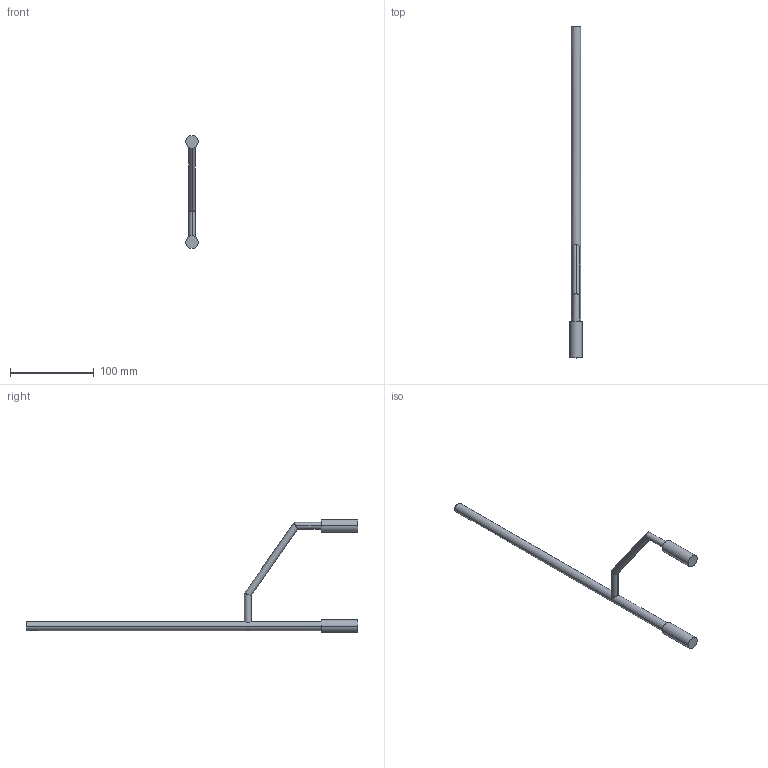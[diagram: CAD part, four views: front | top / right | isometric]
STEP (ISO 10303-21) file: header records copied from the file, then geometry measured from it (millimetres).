
FILE_DESCRIPTION (( 'STEP AP214' ), '1' );
FILE_NAME ('2S_RUL_Frontstütze_O710701300_400.step', '2010-09-07T14:19:17', ( 'grass' ), ( '' ), 'SwSTEP 2.0', 'SolidWorks 2010', '' );
FILE_SCHEMA (( 'AUTOMOTIVE_DESIGN' ));
Length unit declared in the file: millimetre
Products named in the file (1): 2S_RUL_Frontstütze_O710701300_400
Bounding box: 15 x 397.05 x 135 mm (x, y, z)
Volume: 35038.1 mm3; surface area: 31151.2 mm2
Topology: 1 solids, 1 shells, 33 faces, 74 edges, 48 vertices
Faces by surface type: cylinder 18, plane 15
Entity records: 1240 total; most frequent: CARTESIAN_POINT 454, DIRECTION 148, ORIENTED_EDGE 148, EDGE_CURVE 74, AXIS2_PLACEMENT_3D 56, VERTEX_POINT 48, EDGE_LOOP 42, VECTOR 36
